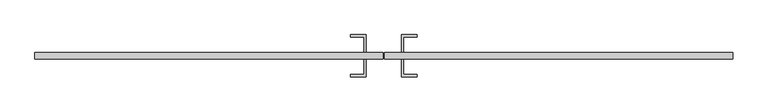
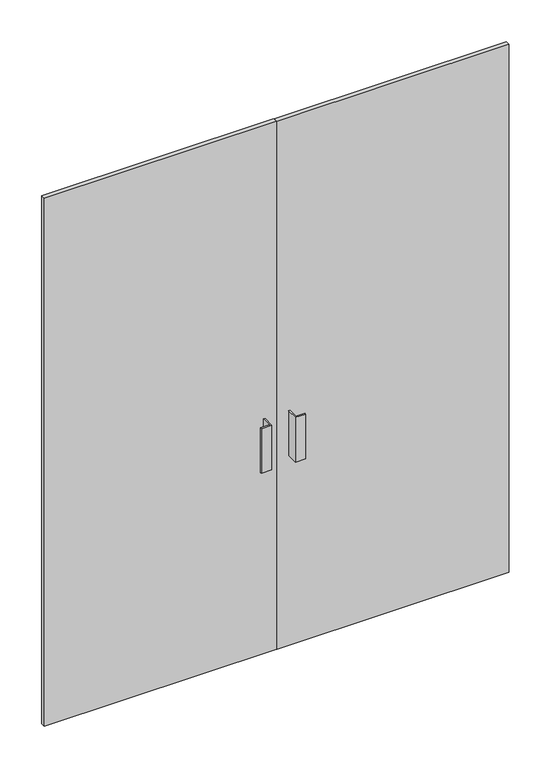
"""IFC4 building model written with IfcOpenShell, lengths in millimetres: plate geometry, Panel-DvereDvoukridle : Obv.plast - Dvoukridle."""

from ifc_helpers import new_model, si_unit, frame, origin, origin_with_axes, place, context, project, spatial, polyline, outline, extrude, source, transform, mapped, element, save


def plate_c616a44a(model_context):
    return source(origin(), model_context, "Body", "SweptSolid", [
        extrude(outline(polyline([(-1.5875, 30.95), (-1000.0, 30.95), (-1000.0, 50.0), (-1.5875, 50.0), (-1.5875, 30.95)])), origin_with_axes(), (0.0, 0.0, 1.0), 2400.0),
        extrude(outline(polyline([(1000.0, 30.95), (1.5875, 30.95), (1.5875, 50.0), (1000.0, 50.0), (1000.0, 30.95)])), origin_with_axes(), (0.0, 0.0, 1.0), 2400.0),
        extrude(outline(polyline([(-50.8, 100.8), (-50.8, 50.0), (-57.15, 50.0), (-57.15, 94.45), (-95.25, 94.45), (-95.25, 100.8), (-50.8, 100.8)])), frame((0.0, 0.0, 863.6), z_axis=(0.0, 0.0, 1.0), x_axis=(1.0, 0.0, 0.0)), (0.0, 0.0, 1.0), 203.2),
        extrude(outline(polyline([(50.8, 100.8), (95.25, 100.8), (95.25, 94.45), (57.15, 94.45), (57.15, 50.0), (50.8, 50.0), (50.8, 100.8)])), frame((0.0, 0.0, 863.6), z_axis=(0.0, 0.0, 1.0), x_axis=(1.0, 0.0, 0.0)), (0.0, 0.0, 1.0), 203.2),
        extrude(outline(polyline([(-50.8, -19.85), (-95.25, -19.85), (-95.25, -13.5), (-57.15, -13.5), (-57.15, 30.95), (-50.8, 30.95), (-50.8, -19.85)])), frame((0.0, 0.0, 863.6), z_axis=(0.0, 0.0, 1.0), x_axis=(1.0, 0.0, 0.0)), (0.0, 0.0, 1.0), 203.2),
        extrude(outline(polyline([(50.8, -19.85), (50.8, 30.95), (57.15, 30.95), (57.15, -13.5), (95.25, -13.5), (95.25, -19.85), (50.8, -19.85)])), frame((0.0, 0.0, 863.6), z_axis=(0.0, 0.0, 1.0), x_axis=(1.0, 0.0, 0.0)), (0.0, 0.0, 1.0), 203.2),
    ])


if __name__ == "__main__":
    model = new_model("IFC4")
    model_context = context("Model", 3, world=origin())
    ifc_project = project(units=[si_unit("LENGTHUNIT", "METRE", prefix="MILLI")], contexts=[model_context])
    site = spatial("IfcSite", under=ifc_project)
    building = spatial("IfcBuilding", under=site)
    placement = place(None, origin())
    plate_shape = plate_c616a44a(model_context)
    element("IfcPlate", 1, ObjectType="Panel-DvereDvoukridle : Obv.plast - Dvoukridle", at=placement, inside=building, context=model_context, shape_type="MappedRepresentation", body=[
        mapped(plate_shape, transform((0.0, 0.0, 0.0), x_axis=(1.0, 0.0, 0.0), y_axis=(0.0, 1.0, 0.0), z_axis=(0.0, 0.0, 1.0))),
    ])
    save(model, "model.ifc")
